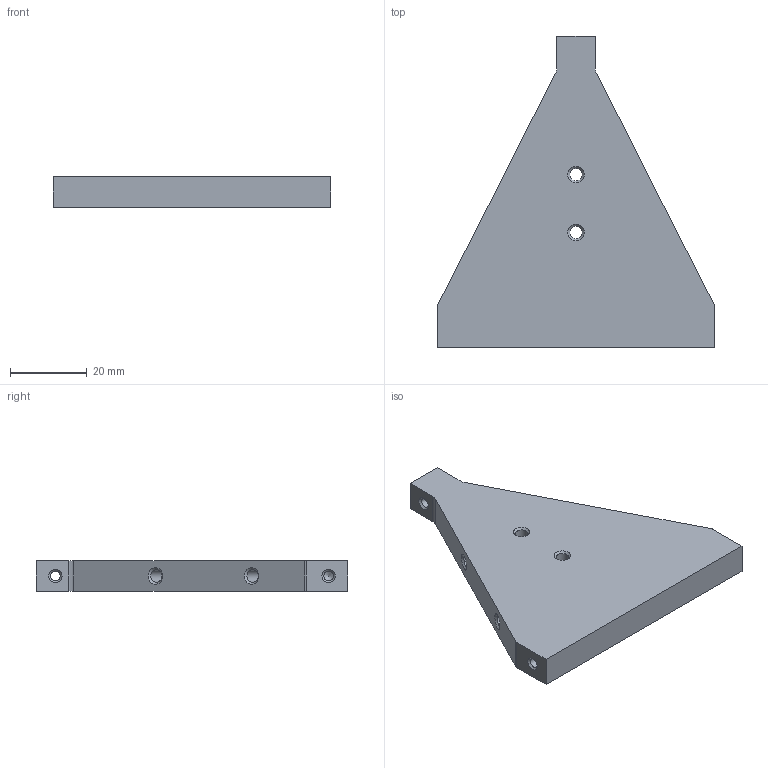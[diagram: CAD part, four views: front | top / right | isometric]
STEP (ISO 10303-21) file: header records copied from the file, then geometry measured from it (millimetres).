
FILE_DESCRIPTION(('STEP AP203'), '1');
FILE_NAME('ÒÏÏÔ1801.01.03.13.003 - Ñòåíêà òîðöåâàÿ', '', ('UNSPECIFIED'), ('UNSPECIFIED'), 'C3D Converter', 'C3D Toolkit', '');
FILE_SCHEMA(('CONFIG_CONTROL_DESIGN'));
Length unit declared in the file: millimetre
Products named in the file (1): ТППФ1801.01.03.13.003
Bounding box: 72 x 81 x 8 mm (x, y, z)
Volume: 26430 mm3; surface area: 9538.4 mm2
Topology: 1 solids, 1 shells, 41 faces, 99 edges, 60 vertices
Faces by surface type: cone 18, cylinder 13, plane 10
Full cylindrical faces by diameter (mm): 2.459 x3, 3.242 x6
Entity records: 1378 total; most frequent: DIRECTION 188, CARTESIAN_POINT 162, ORIENTED_EDGE 132, AXIS2_PLACEMENT_3D 80, EDGE_LOOP 74, EDGE_CURVE 66, VERTEX_POINT 54, FACE_OUTER_BOUND 48
